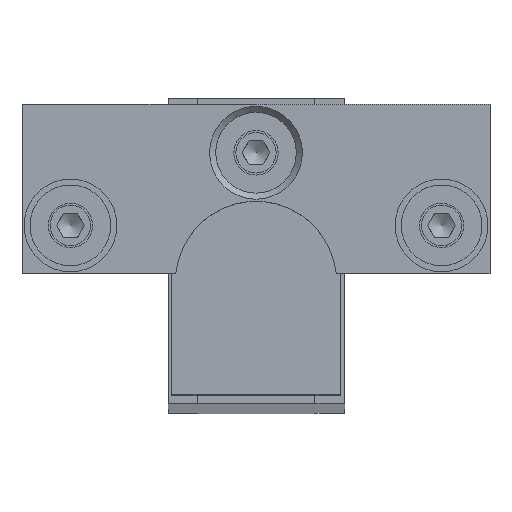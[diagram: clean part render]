
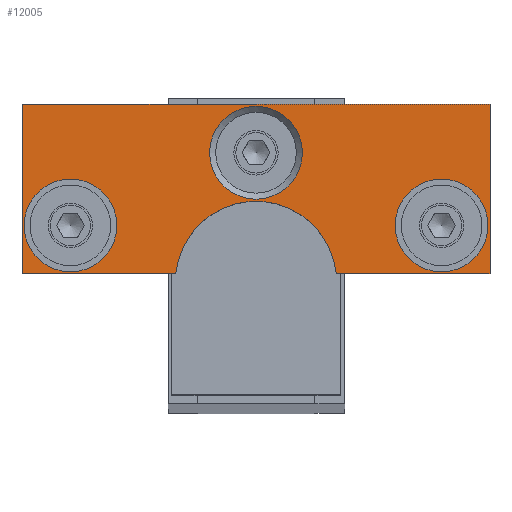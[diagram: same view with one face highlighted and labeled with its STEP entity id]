
A CAD part, top view. The second image highlights one B-rep face of the part: STEP entity #12005.
In plain terms, the highlighted planar face has unit normal (0, 0, 1).
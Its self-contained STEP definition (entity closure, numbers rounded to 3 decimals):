
#225=FACE_BOUND('',#1765,.T.);
#226=FACE_BOUND('',#1766,.T.);
#227=FACE_BOUND('',#1767,.T.);
#380=PLANE('',#13193);
#1019=FACE_OUTER_BOUND('',#1764,.T.);
#1764=EDGE_LOOP('',(#9010,#9011,#9012,#9013,#9014,#9015));
#1765=EDGE_LOOP('',(#9016));
#1766=EDGE_LOOP('',(#9017));
#1767=EDGE_LOOP('',(#9018));
#2577=LINE('',#22025,#3058);
#2578=LINE('',#22027,#3059);
#2579=LINE('',#22029,#3060);
#2580=LINE('',#22033,#3061);
#2581=LINE('',#22034,#3062);
#3058=VECTOR('',#15889,10.);
#3059=VECTOR('',#15890,10.);
#3060=VECTOR('',#15891,10.);
#3061=VECTOR('',#15894,10.);
#3062=VECTOR('',#15895,10.);
#3760=CIRCLE('',#13191,5.75);
#3762=CIRCLE('',#13194,10.);
#3763=CIRCLE('',#13195,5.75);
#3764=CIRCLE('',#13196,5.75);
#4967=VERTEX_POINT('',#22017);
#4969=VERTEX_POINT('',#22023);
#4970=VERTEX_POINT('',#22024);
#4971=VERTEX_POINT('',#22026);
#4972=VERTEX_POINT('',#22028);
#4973=VERTEX_POINT('',#22030);
#4974=VERTEX_POINT('',#22032);
#4975=VERTEX_POINT('',#22035);
#4976=VERTEX_POINT('',#22037);
#6476=EDGE_CURVE('',#4967,#4967,#3760,.T.);
#6479=EDGE_CURVE('',#4969,#4970,#2577,.T.);
#6480=EDGE_CURVE('',#4970,#4971,#2578,.T.);
#6481=EDGE_CURVE('',#4971,#4972,#2579,.T.);
#6482=EDGE_CURVE('',#4972,#4973,#3762,.T.);
#6483=EDGE_CURVE('',#4973,#4974,#2580,.T.);
#6484=EDGE_CURVE('',#4974,#4969,#2581,.T.);
#6485=EDGE_CURVE('',#4975,#4975,#3763,.T.);
#6486=EDGE_CURVE('',#4976,#4976,#3764,.T.);
#9010=ORIENTED_EDGE('',*,*,#6479,.T.);
#9011=ORIENTED_EDGE('',*,*,#6480,.T.);
#9012=ORIENTED_EDGE('',*,*,#6481,.T.);
#9013=ORIENTED_EDGE('',*,*,#6482,.T.);
#9014=ORIENTED_EDGE('',*,*,#6483,.T.);
#9015=ORIENTED_EDGE('',*,*,#6484,.T.);
#9016=ORIENTED_EDGE('',*,*,#6485,.F.);
#9017=ORIENTED_EDGE('',*,*,#6486,.F.);
#9018=ORIENTED_EDGE('',*,*,#6476,.F.);
#12005=ADVANCED_FACE('',(#1019,#225,#226,#227),#380,.T.);
#13191=AXIS2_PLACEMENT_3D('',#22018,#15882,#15883);
#13193=AXIS2_PLACEMENT_3D('',#22022,#15887,#15888);
#13194=AXIS2_PLACEMENT_3D('',#22031,#15892,#15893);
#13195=AXIS2_PLACEMENT_3D('',#22036,#15896,#15897);
#13196=AXIS2_PLACEMENT_3D('',#22038,#15898,#15899);
#15882=DIRECTION('center_axis',(0.,0.,
1.));
#15883=DIRECTION('ref_axis',(-1.,0.,0.));
#15887=DIRECTION('center_axis',(0.,0.,
1.));
#15888=DIRECTION('ref_axis',(1.,0.,0.));
#15889=DIRECTION('',(-1.,0.,0.));
#15890=DIRECTION('',(0.,-1.,0.));
#15891=DIRECTION('',(1.,0.,0.));
#15892=DIRECTION('center_axis',(0.,0.,
-1.));
#15893=DIRECTION('ref_axis',(0.995,0.1,0.));
#15894=DIRECTION('',(1.,0.,0.));
#15895=DIRECTION('',(0.,1.,0.));
#15896=DIRECTION('center_axis',(0.,0.,
1.));
#15897=DIRECTION('ref_axis',(-1.,0.,0.));
#15898=DIRECTION('center_axis',(0.,0.,
1.));
#15899=DIRECTION('ref_axis',(-1.,0.,0.));
#22017=CARTESIAN_POINT('',(39.65,22.,396.));
#22018=CARTESIAN_POINT('Origin',(33.9,22.,396.));
#22022=CARTESIAN_POINT('Origin',(10.9,27.153,396.));
#22023=CARTESIAN_POINT('',(39.9,37.,396.));
#22024=CARTESIAN_POINT('',(-18.1,37.,396.));
#22025=CARTESIAN_POINT('',(-18.1,37.,396.));
#22026=CARTESIAN_POINT('',(-18.1,16.,396.));
#22027=CARTESIAN_POINT('',(-18.1,16.,396.));
#22028=CARTESIAN_POINT('',(0.95,16.,396.));
#22029=CARTESIAN_POINT('',(0.95,16.,396.));
#22030=CARTESIAN_POINT('',(20.85,16.,396.));
#22031=CARTESIAN_POINT('Origin',(10.9,15.,396.));
#22032=CARTESIAN_POINT('',(39.9,16.,396.));
#22033=CARTESIAN_POINT('',(39.9,16.,396.));
#22034=CARTESIAN_POINT('',(39.9,37.,396.));
#22035=CARTESIAN_POINT('',(16.65,31.,396.));
#22036=CARTESIAN_POINT('Origin',(10.9,31.,396.));
#22037=CARTESIAN_POINT('',(-6.35,22.,396.));
#22038=CARTESIAN_POINT('Origin',(-12.1,22.,396.));
